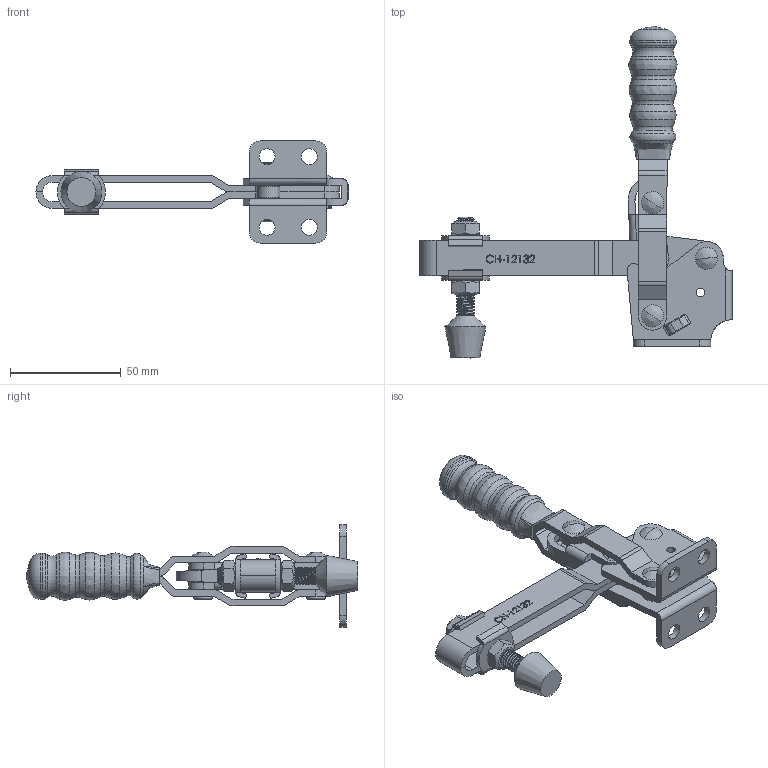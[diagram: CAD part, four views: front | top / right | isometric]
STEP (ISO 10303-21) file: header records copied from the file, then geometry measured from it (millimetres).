
FILE_DESCRIPTION(/* description */ ('STEP AP203'),/* implementation_level */ '2;1');
FILE_NAME(/* name */ 'D:\Vault_2016\Projekty\NASZ KATALOG\CLAMPTEK\STRONA\Vertical toggle clamp\CH-12132\CH-12132_ZAMKNIETY.stp',/* time_stamp */ '2019-01-18T12:37:59+01:00',/* author */ ('CADENGINEERING4'),/* organization */ ('Î¢ÈíÖÐ¹ú'),/* preprocessor_version */ 'ST-DEVELOPER v17.2',/* originating_system */ 'Autodesk Inventor 2019',/* authorisation */ '');
FILE_SCHEMA (('AUTOMOTIVE_DESIGN { 1 0 10303 214 3 1 1 }'));
Products named in the file (12): CH-12132_ZAMKNIETY; CH-12130-07; CH-12130-08; CH-12130-04 CONNECTING-PLATE; CH-12130-01 FLANGED BASE; CH-12130-06; CH-12130-05; CH-FW-516; CH-FC-56212 SPINDLE SUPPLIED; CH-12130-03 STRAIGHT HANDLE; CH-FC-56212 Nut; CH-12132-02 LONG U-BAR
Assembly tree (15 placements, depth 2):
  CH-12132_ZAMKNIETY
    CH-12130-08  x2
    CH-12130-07
    CH-12130-06  x2
    CH-FW-516  x2
    CH-12130-04 CONNECTING-PLATE
    CH-12130-01 FLANGED BASE
    CH-12130-05
    CH-FC-56212 SPINDLE SUPPLIED
    CH-12130-03 STRAIGHT HANDLE
    CH-FC-56212 Nut  x2
    CH-12132-02 LONG U-BAR
Bounding box: 140.66 x 149.59 x 46 mm (x, y, z)
Volume: 62779.4 mm3; surface area: 48029.7 mm2
Topology: 18 solids, 18 shells, 715 faces, 1993 edges, 1336 vertices
Faces by surface type: plane 314, bspline 190, cylinder 156, cone 30, torus 25
Full cylindrical faces by diameter (mm): 2.554 x1, 2.949 x1, 3.9 x2, 6.3 x6, 6.4 x20, 6.8 x1, 7.2 x4, 7.92 x32, 8.1 x2, 8.4 x2, 10 x1, 20.847 x1
Entity records: 46620 total; most frequent: CARTESIAN_POINT 30195, ORIENTED_EDGE 3678, DIRECTION 2740, EDGE_CURVE 1839, VERTEX_POINT 1240, LINE 992, VECTOR 992, AXIS2_PLACEMENT_3D 874
